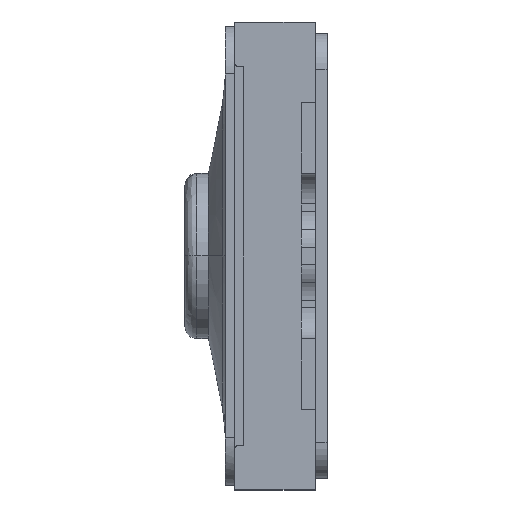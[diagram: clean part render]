
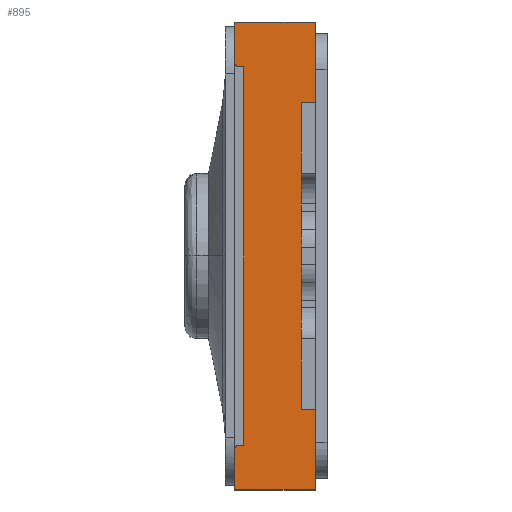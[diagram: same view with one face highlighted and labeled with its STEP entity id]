
A CAD part, left-side view. The second image highlights one B-rep face of the part: STEP entity #895.
In plain terms, the highlighted planar face has unit normal (-1, 0, 0).
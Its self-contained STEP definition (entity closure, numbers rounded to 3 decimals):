
#53 = LINE ( 'NONE', #1971, #3028 ) ;
#71 = AXIS2_PLACEMENT_3D ( 'NONE', #2010, #1578, #1046 ) ;
#115 = VERTEX_POINT ( 'NONE', #1430 ) ;
#126 = DIRECTION ( 'NONE',  ( 0., -1., 0. ) ) ;
#149 = ORIENTED_EDGE ( 'NONE', *, *, #3539, .F. ) ;
#190 = ORIENTED_EDGE ( 'NONE', *, *, #968, .F. ) ;
#211 = CARTESIAN_POINT ( 'NONE',  ( -1.52, 0.05, 0.655 ) ) ;
#313 = ORIENTED_EDGE ( 'NONE', *, *, #3254, .T. ) ;
#322 = CARTESIAN_POINT ( 'NONE',  ( -1.52, 0.372, -0.81 ) ) ;
#461 = EDGE_LOOP ( 'NONE', ( #2250, #5856, #190, #3191, #149, #3374, #3966, #2965, #1484, #4041, #3689, #487, #2700, #313 ) ) ;
#480 = VECTOR ( 'NONE', #5322, 1000. ) ;
#487 = ORIENTED_EDGE ( 'NONE', *, *, #1910, .F. ) ;
#548 = EDGE_CURVE ( 'NONE', #919, #5633, #1749, .T. ) ;
#567 = VERTEX_POINT ( 'NONE', #3591 ) ;
#614 = LINE ( 'NONE', #1607, #2009 ) ;
#629 = EDGE_CURVE ( 'NONE', #3128, #5227, #2659, .T. ) ;
#768 = DIRECTION ( 'NONE',  ( 0., -1., 0. ) ) ;
#813 = LINE ( 'NONE', #843, #2265 ) ;
#834 = CARTESIAN_POINT ( 'NONE',  ( -1.52, 0.05, 1. ) ) ;
#843 = CARTESIAN_POINT ( 'NONE',  ( -1.52, 0.05, -0.98 ) ) ;
#895 = ADVANCED_FACE ( 'NONE', ( #5688 ), #1426, .T. ) ;
#919 = VERTEX_POINT ( 'NONE', #4862 ) ;
#921 = VECTOR ( 'NONE', #768, 1000. ) ;
#945 = EDGE_CURVE ( 'NONE', #5633, #3718, #977, .T. ) ;
#946 = DIRECTION ( 'NONE',  ( 0., 0., 1. ) ) ;
#949 = VERTEX_POINT ( 'NONE', #5885 ) ;
#968 = EDGE_CURVE ( 'NONE', #567, #949, #3065, .T. ) ;
#977 = CIRCLE ( 'NONE', #1573, 0.02 ) ;
#1027 = CARTESIAN_POINT ( 'NONE',  ( -1.52, 0.392, -0.98 ) ) ;
#1029 = DIRECTION ( 'NONE',  ( 0., 0., -1. ) ) ;
#1046 = DIRECTION ( 'NONE',  ( 0., 0., 1. ) ) ;
#1053 = CARTESIAN_POINT ( 'NONE',  ( -1.52, 0.392, 0.01 ) ) ;
#1054 = VERTEX_POINT ( 'NONE', #2313 ) ;
#1426 = PLANE ( 'NONE',  #2562 ) ;
#1430 = CARTESIAN_POINT ( 'NONE',  ( -1.52, 0.392, 0.83 ) ) ;
#1484 = ORIENTED_EDGE ( 'NONE', *, *, #2958, .T. ) ;
#1515 = VECTOR ( 'NONE', #4931, 1000. ) ;
#1518 = LINE ( 'NONE', #1053, #2540 ) ;
#1573 = AXIS2_PLACEMENT_3D ( 'NONE', #322, #5818, #2144 ) ;
#1578 = DIRECTION ( 'NONE',  ( -1., 0., 0. ) ) ;
#1607 = CARTESIAN_POINT ( 'NONE',  ( -1.52, 0.392, -0.98 ) ) ;
#1624 = CARTESIAN_POINT ( 'NONE',  ( -1.52, 0.05, -0.635 ) ) ;
#1688 = CARTESIAN_POINT ( 'NONE',  ( -1.52, 0.392, 0.01 ) ) ;
#1737 = EDGE_CURVE ( 'NONE', #1054, #5552, #3104, .T. ) ;
#1745 = CARTESIAN_POINT ( 'NONE',  ( -1.52, 0.392, -0.98 ) ) ;
#1749 = LINE ( 'NONE', #2207, #5567 ) ;
#1910 = EDGE_CURVE ( 'NONE', #2149, #3718, #4448, .T. ) ;
#1971 = CARTESIAN_POINT ( 'NONE',  ( -1.52, 0.11, -0.98 ) ) ;
#2009 = VECTOR ( 'NONE', #126, 1000. ) ;
#2010 = CARTESIAN_POINT ( 'NONE',  ( -1.52, 0.372, 0.83 ) ) ;
#2114 = CARTESIAN_POINT ( 'NONE',  ( -1.52, 0.392, 1. ) ) ;
#2126 = DIRECTION ( 'NONE',  ( 0., -1., 0. ) ) ;
#2144 = DIRECTION ( 'NONE',  ( 0., 0., 1. ) ) ;
#2149 = VERTEX_POINT ( 'NONE', #1745 ) ;
#2176 = CARTESIAN_POINT ( 'NONE',  ( -1.52, 0.372, 0.81 ) ) ;
#2207 = CARTESIAN_POINT ( 'NONE',  ( -1.52, 0.392, -0.79 ) ) ;
#2250 = ORIENTED_EDGE ( 'NONE', *, *, #1737, .F. ) ;
#2265 = VECTOR ( 'NONE', #6000, 1000. ) ;
#2313 = CARTESIAN_POINT ( 'NONE',  ( -1.52, 0.11, -0.635 ) ) ;
#2532 = EDGE_CURVE ( 'NONE', #567, #4454, #3277, .T. ) ;
#2540 = VECTOR ( 'NONE', #2928, 1000. ) ;
#2562 = AXIS2_PLACEMENT_3D ( 'NONE', #1027, #2930, #4798 ) ;
#2659 = LINE ( 'NONE', #4537, #3215 ) ;
#2700 = ORIENTED_EDGE ( 'NONE', *, *, #5708, .T. ) ;
#2928 = DIRECTION ( 'NONE',  ( 0., 0., 1. ) ) ;
#2930 = DIRECTION ( 'NONE',  ( -1., 0., 0. ) ) ;
#2958 = EDGE_CURVE ( 'NONE', #5227, #919, #4255, .T. ) ;
#2965 = ORIENTED_EDGE ( 'NONE', *, *, #629, .T. ) ;
#3026 = DIRECTION ( 'NONE',  ( 0., -1., 0. ) ) ;
#3028 = VECTOR ( 'NONE', #4235, 1000. ) ;
#3065 = LINE ( 'NONE', #211, #480 ) ;
#3104 = LINE ( 'NONE', #4969, #921 ) ;
#3128 = VERTEX_POINT ( 'NONE', #2176 ) ;
#3150 = VERTEX_POINT ( 'NONE', #3562 ) ;
#3191 = ORIENTED_EDGE ( 'NONE', *, *, #2532, .T. ) ;
#3215 = VECTOR ( 'NONE', #2126, 1000. ) ;
#3230 = CARTESIAN_POINT ( 'NONE',  ( -1.52, 0.392, 1. ) ) ;
#3254 = EDGE_CURVE ( 'NONE', #3150, #5552, #813, .T. ) ;
#3277 = LINE ( 'NONE', #5147, #5178 ) ;
#3350 = EDGE_CURVE ( 'NONE', #115, #6070, #1518, .T. ) ;
#3374 = ORIENTED_EDGE ( 'NONE', *, *, #3350, .F. ) ;
#3412 = CARTESIAN_POINT ( 'NONE',  ( -1.52, 0.392, -0.81 ) ) ;
#3505 = DIRECTION ( 'NONE',  ( 0., 1., 0. ) ) ;
#3539 = EDGE_CURVE ( 'NONE', #6070, #4454, #5354, .T. ) ;
#3562 = CARTESIAN_POINT ( 'NONE',  ( -1.52, 0.05, -0.98 ) ) ;
#3591 = CARTESIAN_POINT ( 'NONE',  ( -1.52, 0.05, 0.655 ) ) ;
#3616 = VECTOR ( 'NONE', #3026, 1000. ) ;
#3689 = ORIENTED_EDGE ( 'NONE', *, *, #945, .T. ) ;
#3718 = VERTEX_POINT ( 'NONE', #3412 ) ;
#3766 = CARTESIAN_POINT ( 'NONE',  ( -1.52, 0.352, 0.81 ) ) ;
#3828 = VECTOR ( 'NONE', #1029, 1000. ) ;
#3861 = CARTESIAN_POINT ( 'NONE',  ( -1.52, 0.352, -0.98 ) ) ;
#3966 = ORIENTED_EDGE ( 'NONE', *, *, #4546, .T. ) ;
#4041 = ORIENTED_EDGE ( 'NONE', *, *, #548, .T. ) ;
#4235 = DIRECTION ( 'NONE',  ( 0., 0., -1. ) ) ;
#4255 = LINE ( 'NONE', #3861, #3828 ) ;
#4448 = LINE ( 'NONE', #1688, #1515 ) ;
#4454 = VERTEX_POINT ( 'NONE', #834 ) ;
#4537 = CARTESIAN_POINT ( 'NONE',  ( -1.52, 0.392, 0.81 ) ) ;
#4546 = EDGE_CURVE ( 'NONE', #115, #3128, #5376, .T. ) ;
#4798 = DIRECTION ( 'NONE',  ( 0., 0., -1. ) ) ;
#4862 = CARTESIAN_POINT ( 'NONE',  ( -1.52, 0.352, -0.79 ) ) ;
#4871 = EDGE_CURVE ( 'NONE', #949, #1054, #53, .T. ) ;
#4931 = DIRECTION ( 'NONE',  ( 0., 0., 1. ) ) ;
#4969 = CARTESIAN_POINT ( 'NONE',  ( -1.52, 0.05, -0.635 ) ) ;
#5147 = CARTESIAN_POINT ( 'NONE',  ( -1.52, 0.05, -0.98 ) ) ;
#5178 = VECTOR ( 'NONE', #946, 1000. ) ;
#5227 = VERTEX_POINT ( 'NONE', #3766 ) ;
#5322 = DIRECTION ( 'NONE',  ( 0., 1., 0. ) ) ;
#5354 = LINE ( 'NONE', #2114, #3616 ) ;
#5376 = CIRCLE ( 'NONE', #71, 0.02 ) ;
#5552 = VERTEX_POINT ( 'NONE', #1624 ) ;
#5567 = VECTOR ( 'NONE', #3505, 1000. ) ;
#5633 = VERTEX_POINT ( 'NONE', #5634 ) ;
#5634 = CARTESIAN_POINT ( 'NONE',  ( -1.52, 0.372, -0.79 ) ) ;
#5688 = FACE_OUTER_BOUND ( 'NONE', #461, .T. ) ;
#5708 = EDGE_CURVE ( 'NONE', #2149, #3150, #614, .T. ) ;
#5818 = DIRECTION ( 'NONE',  ( -1., 0., 0. ) ) ;
#5856 = ORIENTED_EDGE ( 'NONE', *, *, #4871, .F. ) ;
#5885 = CARTESIAN_POINT ( 'NONE',  ( -1.52, 0.11, 0.655 ) ) ;
#6000 = DIRECTION ( 'NONE',  ( 0., 0., 1. ) ) ;
#6070 = VERTEX_POINT ( 'NONE', #3230 ) ;
